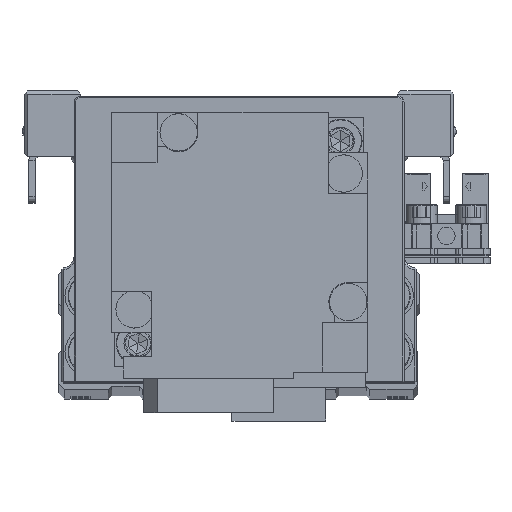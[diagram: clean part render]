
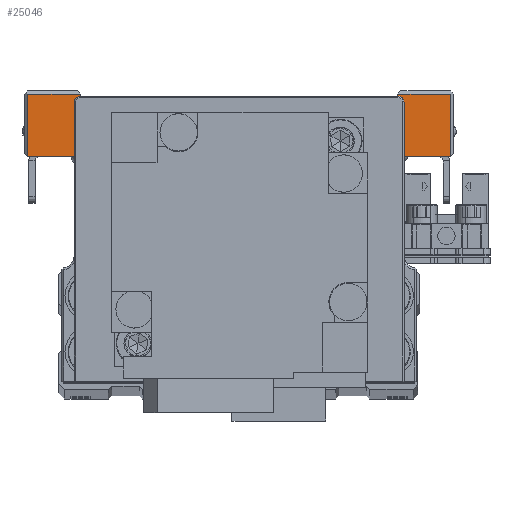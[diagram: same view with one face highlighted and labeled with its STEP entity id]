
A CAD part, top view. The second image highlights one B-rep face of the part: STEP entity #25046.
In plain terms, the highlighted planar face has unit normal (0, 0, 1) as drawn and (1, 0, 0) by its records, which use the part's own axes.
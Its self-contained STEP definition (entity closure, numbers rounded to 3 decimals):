
#339 = VECTOR ( 'NONE', #33813, 1000. ) ;
#616 = CARTESIAN_POINT ( 'NONE',  ( 25.5, 5., -16.5 ) ) ;
#755 = ORIENTED_EDGE ( 'NONE', *, *, #1911, .T. ) ;
#1021 = VECTOR ( 'NONE', #12184, 1000. ) ;
#1447 = ORIENTED_EDGE ( 'NONE', *, *, #32310, .T. ) ;
#1911 = EDGE_CURVE ( 'NONE', #30594, #16179, #29794, .T. ) ;
#2270 = DIRECTION ( 'NONE',  ( 0., -1., 0. ) ) ;
#3246 = EDGE_LOOP ( 'NONE', ( #35877, #755, #23089, #9982, #27831, #28001, #29772, #25394, #24903, #9532, #1447, #24678, #32618, #11817 ) ) ;
#3774 = CARTESIAN_POINT ( 'NONE',  ( 25.5, 15., 34. ) ) ;
#4200 = LINE ( 'NONE', #15771, #32641 ) ;
#4270 = DIRECTION ( 'NONE',  ( 0., 0.707, -0.707 ) ) ;
#4277 = LINE ( 'NONE', #15854, #26288 ) ;
#4359 = DIRECTION ( 'NONE',  ( 0., 0., -1. ) ) ;
#4424 = CARTESIAN_POINT ( 'NONE',  ( 25.5, 15., 34. ) ) ;
#4473 = DIRECTION ( 'NONE',  ( 0., 1., 0. ) ) ;
#4614 = VERTEX_POINT ( 'NONE', #15035 ) ;
#6013 = AXIS2_PLACEMENT_3D ( 'NONE', #20558, #32143, #6115 ) ;
#6115 = DIRECTION ( 'NONE',  ( 0., 0., 1. ) ) ;
#6382 = LINE ( 'NONE', #17954, #18910 ) ;
#6494 = EDGE_CURVE ( 'NONE', #16179, #30585, #16683, .T. ) ;
#6696 = DIRECTION ( 'NONE',  ( 0., 0., 1. ) ) ;
#6983 = LINE ( 'NONE', #18554, #9475 ) ;
#7030 = EDGE_CURVE ( 'NONE', #29388, #32258, #21125, .T. ) ;
#7148 = CARTESIAN_POINT ( 'NONE',  ( 25.5, -6., 16.2 ) ) ;
#8030 = DIRECTION ( 'NONE',  ( 0., 0., -1. ) ) ;
#8374 = VECTOR ( 'NONE', #21245, 1000. ) ;
#8886 = VECTOR ( 'NONE', #4270, 1000. ) ;
#8985 = PLANE ( 'NONE',  #6013 ) ;
#9475 = VECTOR ( 'NONE', #30146, 1000. ) ;
#9532 = ORIENTED_EDGE ( 'NONE', *, *, #13746, .T. ) ;
#9681 = CARTESIAN_POINT ( 'NONE',  ( 25.5, 5., -34.5 ) ) ;
#9982 = ORIENTED_EDGE ( 'NONE', *, *, #16278, .T. ) ;
#10625 = LINE ( 'NONE', #22197, #339 ) ;
#11817 = ORIENTED_EDGE ( 'NONE', *, *, #29588, .F. ) ;
#11982 = VECTOR ( 'NONE', #4473, 1000. ) ;
#12065 = EDGE_CURVE ( 'NONE', #32696, #30594, #4200, .T. ) ;
#12184 = DIRECTION ( 'NONE',  ( 0., -1., 0. ) ) ;
#12478 = VERTEX_POINT ( 'NONE', #27129 ) ;
#13215 = VECTOR ( 'NONE', #2270, 1000. ) ;
#13325 = VERTEX_POINT ( 'NONE', #15588 ) ;
#13746 = EDGE_CURVE ( 'NONE', #21940, #4614, #35702, .T. ) ;
#15035 = CARTESIAN_POINT ( 'NONE',  ( 25.5, 5., -34. ) ) ;
#15347 = DIRECTION ( 'NONE',  ( 0., 0., 1. ) ) ;
#15588 = CARTESIAN_POINT ( 'NONE',  ( 25.5, 5., 16.5 ) ) ;
#15705 = EDGE_CURVE ( 'NONE', #15838, #34467, #4277, .T. ) ;
#15771 = CARTESIAN_POINT ( 'NONE',  ( 25.5, 10.5, 25.5 ) ) ;
#15838 = VERTEX_POINT ( 'NONE', #37119 ) ;
#15854 = CARTESIAN_POINT ( 'NONE',  ( 25.5, -6., 16.5 ) ) ;
#16179 = VERTEX_POINT ( 'NONE', #4424 ) ;
#16278 = EDGE_CURVE ( 'NONE', #30585, #13325, #22444, .T. ) ;
#16596 = CARTESIAN_POINT ( 'NONE',  ( 25.5, 15., 25.5 ) ) ;
#16683 = LINE ( 'NONE', #28274, #13215 ) ;
#16907 = EDGE_CURVE ( 'NONE', #36704, #34467, #6382, .T. ) ;
#17954 = CARTESIAN_POINT ( 'NONE',  ( 25.5, -6., 16.2 ) ) ;
#18185 = VECTOR ( 'NONE', #6696, 1000. ) ;
#18554 = CARTESIAN_POINT ( 'NONE',  ( 25.5, 5., 16.5 ) ) ;
#18708 = LINE ( 'NONE', #30292, #8886 ) ;
#18791 = LINE ( 'NONE', #30375, #35521 ) ;
#18900 = LINE ( 'NONE', #30486, #11982 ) ;
#18910 = VECTOR ( 'NONE', #29550, 1000. ) ;
#20558 = CARTESIAN_POINT ( 'NONE',  ( 25.5, 5., -16.5 ) ) ;
#21125 = LINE ( 'NONE', #32719, #18185 ) ;
#21245 = DIRECTION ( 'NONE',  ( 0., 0., -1. ) ) ;
#21940 = VERTEX_POINT ( 'NONE', #25911 ) ;
#22197 = CARTESIAN_POINT ( 'NONE',  ( 25.5, 5., -34. ) ) ;
#22444 = LINE ( 'NONE', #34045, #32937 ) ;
#23089 = ORIENTED_EDGE ( 'NONE', *, *, #6494, .T. ) ;
#24678 = ORIENTED_EDGE ( 'NONE', *, *, #7030, .T. ) ;
#24903 = ORIENTED_EDGE ( 'NONE', *, *, #33519, .F. ) ;
#25046 = ADVANCED_FACE ( 'NONE', ( #35001 ), #8985, .F. ) ;
#25394 = ORIENTED_EDGE ( 'NONE', *, *, #33163, .T. ) ;
#25911 = CARTESIAN_POINT ( 'NONE',  ( 25.5, 5., -16.5 ) ) ;
#26288 = VECTOR ( 'NONE', #27442, 1000. ) ;
#26630 = LINE ( 'NONE', #616, #1021 ) ;
#27129 = CARTESIAN_POINT ( 'NONE',  ( 25.5, 10.5, -25.5 ) ) ;
#27355 = DIRECTION ( 'NONE',  ( 0., 1., 0. ) ) ;
#27442 = DIRECTION ( 'NONE',  ( 0., 0., 1. ) ) ;
#27525 = CARTESIAN_POINT ( 'NONE',  ( 25.5, 15., -25.5 ) ) ;
#27831 = ORIENTED_EDGE ( 'NONE', *, *, #31375, .T. ) ;
#28001 = ORIENTED_EDGE ( 'NONE', *, *, #16907, .T. ) ;
#28274 = CARTESIAN_POINT ( 'NONE',  ( 25.5, 5., 34. ) ) ;
#28487 = VERTEX_POINT ( 'NONE', #34356 ) ;
#29388 = VERTEX_POINT ( 'NONE', #31592 ) ;
#29550 = DIRECTION ( 'NONE',  ( 0., -0.707, -0.707 ) ) ;
#29588 = EDGE_CURVE ( 'NONE', #32696, #12478, #18791, .T. ) ;
#29772 = ORIENTED_EDGE ( 'NONE', *, *, #15705, .F. ) ;
#29794 = LINE ( 'NONE', #3774, #36232 ) ;
#30146 = DIRECTION ( 'NONE',  ( 0., -1., 0. ) ) ;
#30292 = CARTESIAN_POINT ( 'NONE',  ( 25.5, -6., -16.2 ) ) ;
#30375 = CARTESIAN_POINT ( 'NONE',  ( 25.5, 10.5, -25.5 ) ) ;
#30486 = CARTESIAN_POINT ( 'NONE',  ( 25.5, 10.5, -25.5 ) ) ;
#30585 = VERTEX_POINT ( 'NONE', #33901 ) ;
#30594 = VERTEX_POINT ( 'NONE', #16596 ) ;
#31298 = CARTESIAN_POINT ( 'NONE',  ( 25.5, -5.7, 16.5 ) ) ;
#31375 = EDGE_CURVE ( 'NONE', #13325, #36704, #6983, .T. ) ;
#31592 = CARTESIAN_POINT ( 'NONE',  ( 25.5, 15., -34. ) ) ;
#32143 = DIRECTION ( 'NONE',  ( -1., 0., 0. ) ) ;
#32258 = VERTEX_POINT ( 'NONE', #27525 ) ;
#32310 = EDGE_CURVE ( 'NONE', #4614, #29388, #10625, .T. ) ;
#32618 = ORIENTED_EDGE ( 'NONE', *, *, #34533, .F. ) ;
#32641 = VECTOR ( 'NONE', #27355, 1000. ) ;
#32696 = VERTEX_POINT ( 'NONE', #33206 ) ;
#32719 = CARTESIAN_POINT ( 'NONE',  ( 25.5, 15., -25.5 ) ) ;
#32937 = VECTOR ( 'NONE', #8030, 1000. ) ;
#33163 = EDGE_CURVE ( 'NONE', #15838, #28487, #18708, .T. ) ;
#33206 = CARTESIAN_POINT ( 'NONE',  ( 25.5, 10.5, 25.5 ) ) ;
#33519 = EDGE_CURVE ( 'NONE', #21940, #28487, #26630, .T. ) ;
#33813 = DIRECTION ( 'NONE',  ( 0., 1., 0. ) ) ;
#33901 = CARTESIAN_POINT ( 'NONE',  ( 25.5, 5., 34. ) ) ;
#34045 = CARTESIAN_POINT ( 'NONE',  ( 25.5, 5., -34.5 ) ) ;
#34356 = CARTESIAN_POINT ( 'NONE',  ( 25.5, -5.7, -16.5 ) ) ;
#34467 = VERTEX_POINT ( 'NONE', #7148 ) ;
#34533 = EDGE_CURVE ( 'NONE', #12478, #32258, #18900, .T. ) ;
#35001 = FACE_OUTER_BOUND ( 'NONE', #3246, .T. ) ;
#35521 = VECTOR ( 'NONE', #4359, 1000. ) ;
#35702 = LINE ( 'NONE', #9681, #8374 ) ;
#35877 = ORIENTED_EDGE ( 'NONE', *, *, #12065, .T. ) ;
#36232 = VECTOR ( 'NONE', #15347, 1000. ) ;
#36704 = VERTEX_POINT ( 'NONE', #31298 ) ;
#37119 = CARTESIAN_POINT ( 'NONE',  ( 25.5, -6., -16.2 ) ) ;
